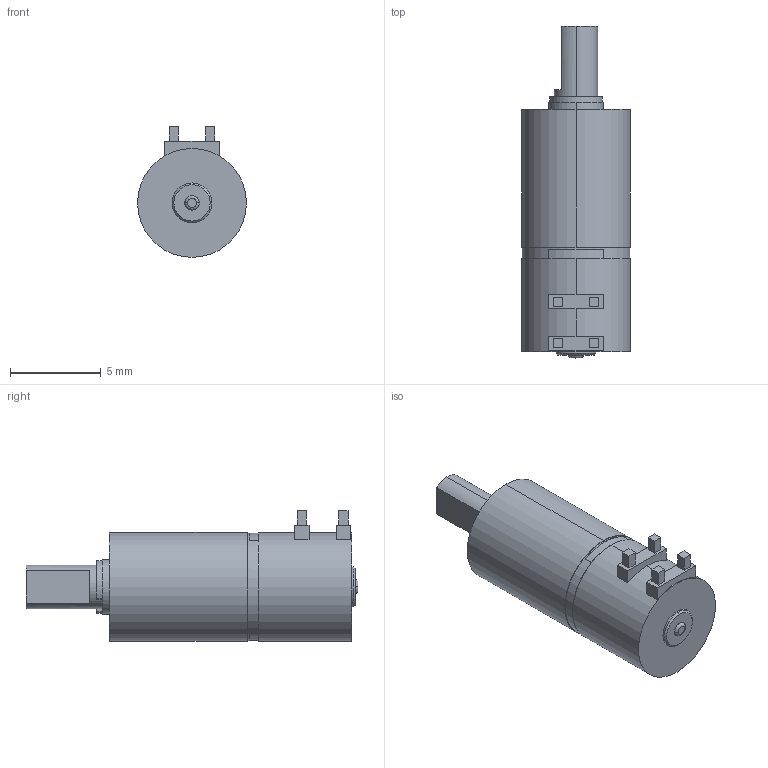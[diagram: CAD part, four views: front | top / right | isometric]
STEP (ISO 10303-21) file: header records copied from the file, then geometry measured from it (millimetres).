
FILE_DESCRIPTION (( 'STEP AP203' ), '1' );
FILE_NAME ('ƒÓ6_MUBD02-20141216.STEP', '2014-12-16T08:40:16', ( '' ), ( '' ), 'SwSTEP 2.0', 'SolidWorks 2013', '' );
FILE_SCHEMA (( 'CONFIG_CONTROL_DESIGN' ));
Length unit declared in the file: millimetre
Products named in the file (1): 冇6_MUBD02-20141216
Bounding box: 6 x 18.3 x 7.2 mm (x, y, z)
Volume: 400.1 mm3; surface area: 374.5 mm2
Topology: 2 solids, 2 shells, 85 faces, 204 edges, 135 vertices
Faces by surface type: plane 53, cylinder 28, cone 2, bspline 2
Entity records: 2588 total; most frequent: CARTESIAN_POINT 473, DIRECTION 439, ORIENTED_EDGE 408, EDGE_CURVE 204, AXIS2_PLACEMENT_3D 157, VERTEX_POINT 135, LINE 125, VECTOR 125
